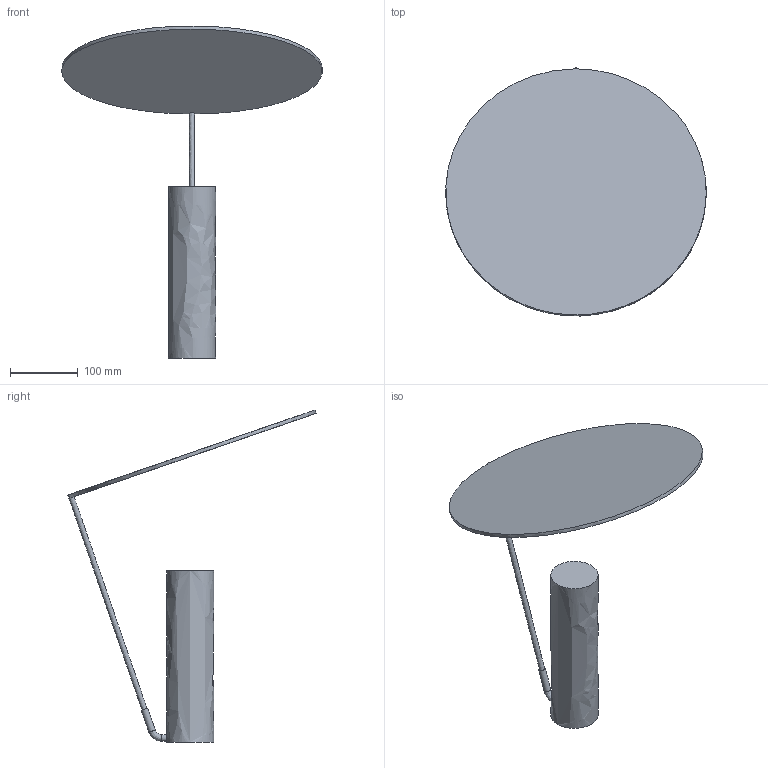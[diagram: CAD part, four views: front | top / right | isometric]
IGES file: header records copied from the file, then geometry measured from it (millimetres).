
Global section: file name: Blue Skies - Simplified 3D v2; native system: unknown; preprocessor: unknown; author: unknown; organization: unknown; date: 20240402.113331; units: millimetre
Bounding box: 384.97 x 367.01 x 490.84 mm (x, y, z)
Volume: 1591386.2 mm3; surface area: 312603.9 mm2
Topology: 1 solids, 1 shells, 11 faces, 22 edges, 15 vertices
Faces by surface type: bspline 11
